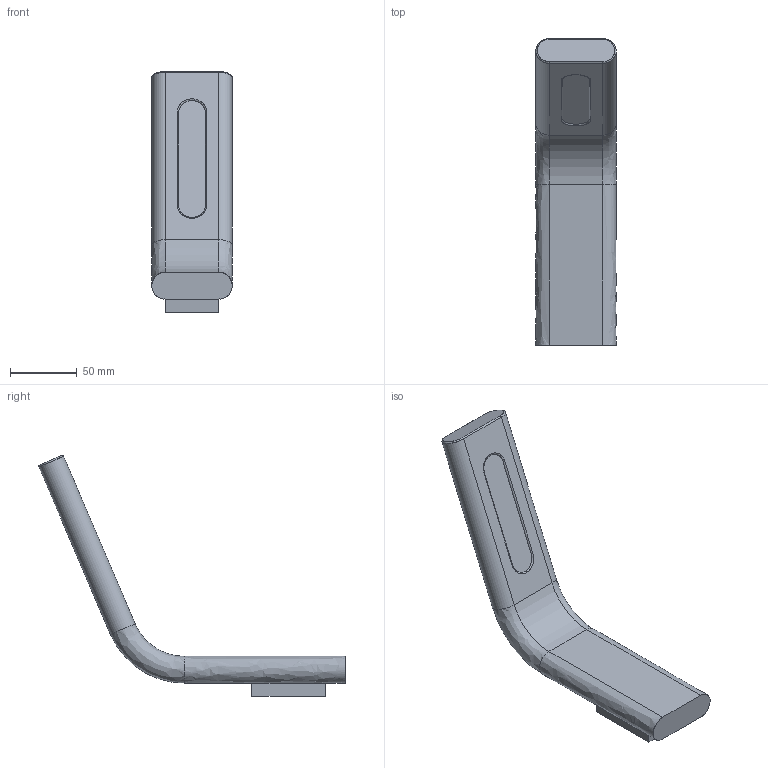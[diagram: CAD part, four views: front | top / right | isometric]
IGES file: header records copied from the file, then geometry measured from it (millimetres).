
Start section: SolidWorks IGES file using analytic representation for surfaces
Global section: file name: C:\Users\danielet\Desktop\3Ds\ZEN-A2038-3D\ZEN-A2038-3D.IGS; native system: SolidWorks 2018; preprocessor: SolidWorks 2018; author: danielet; date: 210802.082244; units: millimetre
Bounding box: 60 x 228.88 x 179.94 mm (x, y, z)
Surface area: 49264.1 mm2 (no closed solid volume)
Topology: 0 solids, 0 shells, 30 faces, 248 edges, 248 vertices
Faces by surface type: bspline 20, revolution 10
